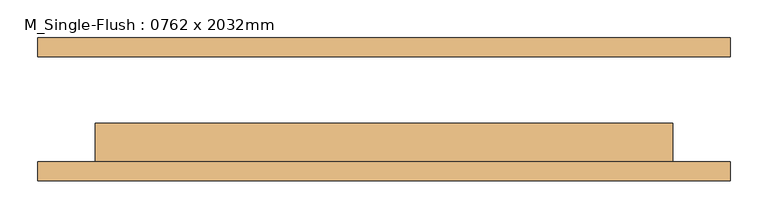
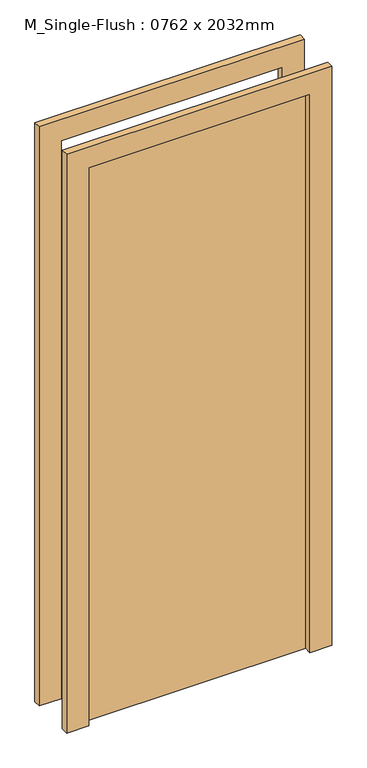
"""IFC4 building model written with IfcOpenShell, lengths in millimetres: door geometry, M_Single-Flush : 0762 x 2032mm."""

from ifc_helpers import new_model, si_unit, frame, origin, origin_with_axes, place, context, project, spatial, polyline, outline, extrude, source, transform, mapped, element, save


def m_single_flush_0762_x_2032mm_8f3f8d24(model_context):
    return source(origin(), model_context, "Body", "SweptSolid", [
        extrude(outline(polyline([(2108.0, -457.0), (0.0, -457.0), (0.0, -381.0), (2032.0, -381.0), (2032.0, 381.0), (0.0, 381.0), (0.0, 457.0), (2108.0, 457.0), (2108.0, -457.0)])), frame((0.0, -94.25, 0.0), z_axis=(0.0, 1.0, 0.0), x_axis=(0.0, 0.0, 1.0)), (0.0, 0.0, 1.0), 25.0),
        extrude(outline(polyline([(2108.0, 457.0), (2108.0, -457.0), (0.0, -457.0), (0.0, -381.0), (2032.0, -381.0), (2032.0, 381.0), (0.0, 381.0), (0.0, 457.0), (2108.0, 457.0)])), frame((0.0, 69.25, 0.0), z_axis=(0.0, 1.0, 0.0), x_axis=(0.0, 0.0, 1.0)), (0.0, 0.0, 1.0), 25.0),
        extrude(outline(polyline([(381.0, -18.25), (381.0, -69.25), (-381.0, -69.25), (-381.0, -18.25), (381.0, -18.25)])), origin_with_axes(), (0.0, 0.0, 1.0), 2032.0),
    ])


if __name__ == "__main__":
    model = new_model("IFC4")
    model_context = context("Model", 3, world=origin())
    ifc_project = project(units=[si_unit("LENGTHUNIT", "METRE", prefix="MILLI")], contexts=[model_context])
    site = spatial("IfcSite", under=ifc_project)
    building = spatial("IfcBuilding", under=site)
    placement = place(None, origin())
    m_single_flush_0762_x_2032mm_shape = m_single_flush_0762_x_2032mm_8f3f8d24(model_context)
    element("IfcDoor", 1, ObjectType="M_Single-Flush : 0762 x 2032mm", at=placement, inside=building, context=model_context, shape_type="MappedRepresentation", body=[
        mapped(m_single_flush_0762_x_2032mm_shape, transform((0.0, 0.0, 0.0), x_axis=(1.0, 0.0, 0.0), y_axis=(0.0, 1.0, 0.0), z_axis=(0.0, 0.0, 1.0))),
    ])
    save(model, "model.ifc")
